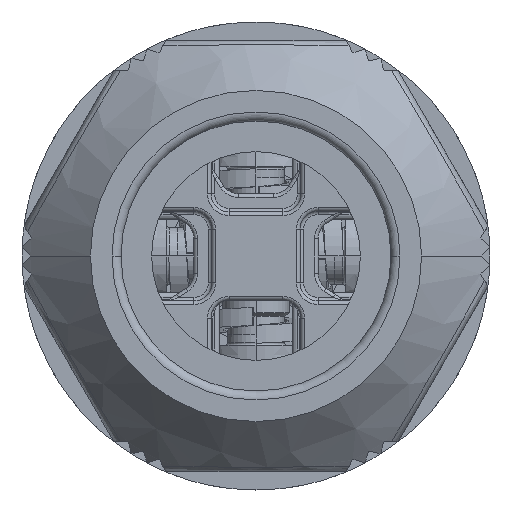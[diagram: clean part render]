
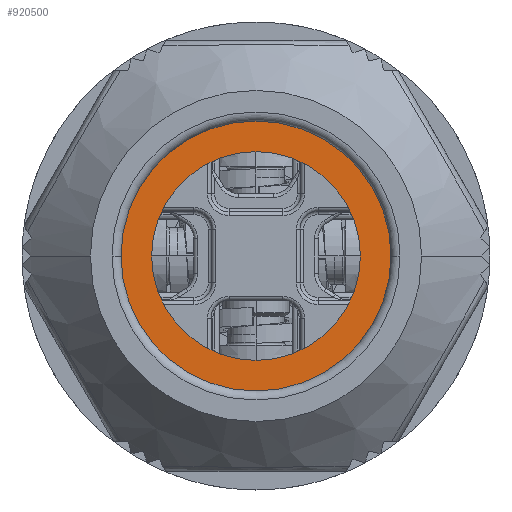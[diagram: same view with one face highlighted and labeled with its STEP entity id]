
A CAD part, left-side view. The second image highlights one B-rep face of the part: STEP entity #920500.
In plain terms, the highlighted planar face has unit normal (-1, 0, 0) as drawn and (1, 0, 0) by its records, which use the part's own axes.
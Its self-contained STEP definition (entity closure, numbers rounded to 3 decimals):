
#919100=CARTESIAN_POINT('',(74.601,32.887,0.));
#919110=VERTEX_POINT('',#919100);
#919140=CARTESIAN_POINT('',(74.601,40.387,0.));
#919150=DIRECTION('',(1.,0.,0.));
#919160=DIRECTION('',(0.,1.,0.));
#919170=AXIS2_PLACEMENT_3D('',#919140,#919150,#919160);
#919180=CIRCLE('',#919170,7.5);
#919190=CARTESIAN_POINT('',(74.601,47.887,0.));
#919200=VERTEX_POINT('',#919190);
#919210=EDGE_CURVE('',#919110,#919200,#919180,.T.);
#920250=CARTESIAN_POINT('',(74.601,44.137,0.));
#920260=DIRECTION('',(1.,0.,0.));
#920270=DIRECTION('',(0.,-1.,0.));
#920280=AXIS2_PLACEMENT_3D('',#920250,#920260,#920270);
#920290=PLANE('',#920280);
#920300=EDGE_CURVE('',#919200,#919110,#919180,.T.);
#920310=ORIENTED_EDGE('',*,*,#920300,.T.);
#920320=ORIENTED_EDGE('',*,*,#919210,.T.);
#920330=EDGE_LOOP('',(#920320,#920310));
#920340=FACE_OUTER_BOUND('',#920330,.T.);
#920350=CARTESIAN_POINT('',(74.601,40.387,0.));
#920360=DIRECTION('',(1.,0.,0.));
#920370=DIRECTION('',(0.,0.,-1.));
#920380=AXIS2_PLACEMENT_3D('',#920350,#920360,#920370);
#920390=CIRCLE('',#920380,5.8);
#920400=CARTESIAN_POINT('',(74.601,40.387,-5.8));
#920410=VERTEX_POINT('',#920400);
#920420=CARTESIAN_POINT('',(74.601,40.387,5.8));
#920430=VERTEX_POINT('',#920420);
#920440=EDGE_CURVE('',#920410,#920430,#920390,.T.);
#920450=ORIENTED_EDGE('',*,*,#920440,.F.);
#920460=EDGE_CURVE('',#920430,#920410,#920390,.T.);
#920470=ORIENTED_EDGE('',*,*,#920460,.F.);
#920480=EDGE_LOOP('',(#920470,#920450));
#920490=FACE_BOUND('',#920480,.T.);
#920500=ADVANCED_FACE('',(#920340,#920490),#920290,.T.);
